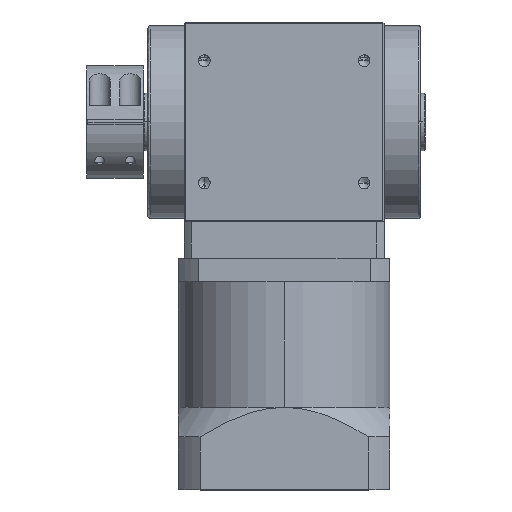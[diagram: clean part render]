
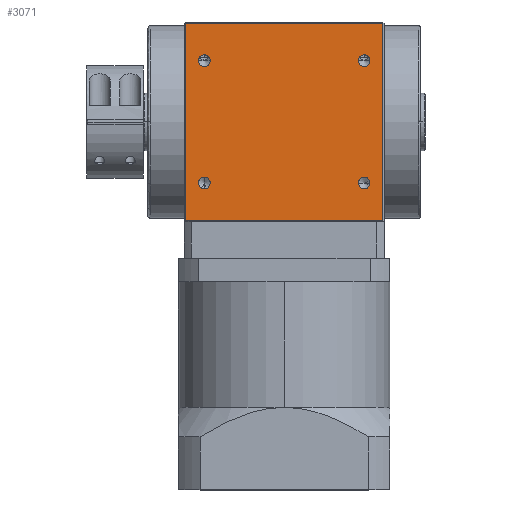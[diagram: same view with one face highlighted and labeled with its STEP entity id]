
A CAD part, top view. The second image highlights one B-rep face of the part: STEP entity #3071.
In plain terms, the highlighted planar face has unit normal (0, 0, 1).
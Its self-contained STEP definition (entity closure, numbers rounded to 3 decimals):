
#25 = CARTESIAN_POINT ( 'NONE',  ( 34., 26., 42.5 ) ) ;
#42 = DIRECTION ( 'NONE',  ( 0., 0., 1. ) ) ;
#61 = DIRECTION ( 'NONE',  ( 1., 0., 0. ) ) ;
#262 = CARTESIAN_POINT ( 'NONE',  ( 31.5, -26., 42.5 ) ) ;
#397 = EDGE_CURVE ( 'NONE', #5567, #9433, #11370, .T. ) ;
#424 = EDGE_CURVE ( 'NONE', #2820, #6285, #6863, .T. ) ;
#485 = EDGE_CURVE ( 'NONE', #9433, #2640, #631, .T. ) ;
#548 = EDGE_CURVE ( 'NONE', #1032, #10187, #4517, .T. ) ;
#565 = EDGE_CURVE ( 'NONE', #2640, #7219, #9740, .T. ) ;
#604 = EDGE_CURVE ( 'NONE', #7219, #5567, #8269, .T. ) ;
#631 = LINE ( 'NONE', #764, #7059 ) ;
#640 = FACE_BOUND ( 'NONE', #5780, .T. ) ;
#677 = EDGE_CURVE ( 'NONE', #4220, #11916, #7909, .T. ) ;
#742 = ORIENTED_EDGE ( 'NONE', *, *, #424, .F. ) ;
#764 = CARTESIAN_POINT ( 'NONE',  ( -42., -42., 42.5 ) ) ;
#773 = EDGE_CURVE ( 'NONE', #8982, #12271, #3644, .T. ) ;
#817 = EDGE_CURVE ( 'NONE', #12271, #8982, #9610, .T. ) ;
#949 = EDGE_CURVE ( 'NONE', #10187, #1032, #5372, .T. ) ;
#1003 = EDGE_CURVE ( 'NONE', #11916, #4220, #5336, .T. ) ;
#1032 = VERTEX_POINT ( 'NONE', #262 ) ;
#1258 = EDGE_CURVE ( 'NONE', #6285, #2820, #5048, .T. ) ;
#1332 = EDGE_LOOP ( 'NONE', ( #6179, #5222, #1827, #8667 ) ) ;
#1609 = ORIENTED_EDGE ( 'NONE', *, *, #949, .F. ) ;
#1648 = EDGE_LOOP ( 'NONE', ( #6315, #12112 ) ) ;
#1767 = DIRECTION ( 'NONE',  ( 0., 1., 0. ) ) ;
#1827 = ORIENTED_EDGE ( 'NONE', *, *, #397, .F. ) ;
#1879 = ORIENTED_EDGE ( 'NONE', *, *, #817, .F. ) ;
#1894 = CARTESIAN_POINT ( 'NONE',  ( 34., -26., 42.5 ) ) ;
#2361 = CARTESIAN_POINT ( 'NONE',  ( 36.5, 26., 42.5 ) ) ;
#2384 = ORIENTED_EDGE ( 'NONE', *, *, #773, .F. ) ;
#2524 = CARTESIAN_POINT ( 'NONE',  ( -34., 26., 42.5 ) ) ;
#2539 = DIRECTION ( 'NONE',  ( 0., 0., 1. ) ) ;
#2563 = DIRECTION ( 'NONE',  ( 1., 0., 0. ) ) ;
#2640 = VERTEX_POINT ( 'NONE', #7546 ) ;
#2820 = VERTEX_POINT ( 'NONE', #12264 ) ;
#2882 = DIRECTION ( 'NONE',  ( 1., 0., 0. ) ) ;
#2923 = DIRECTION ( 'NONE',  ( 0., -1., 0. ) ) ;
#3071 = ADVANCED_FACE ( 'NONE', ( #640, #11473, #8362, #12219, #3231 ), #11383, .F. ) ;
#3231 = FACE_OUTER_BOUND ( 'NONE', #1332, .T. ) ;
#3549 = AXIS2_PLACEMENT_3D ( 'NONE', #10525, #4677, #11505 ) ;
#3644 = CIRCLE ( 'NONE', #7374, 2.5 ) ;
#4111 = EDGE_LOOP ( 'NONE', ( #1879, #2384 ) ) ;
#4220 = VERTEX_POINT ( 'NONE', #2361 ) ;
#4410 = CARTESIAN_POINT ( 'NONE',  ( 42., 42., 42.5 ) ) ;
#4517 = CIRCLE ( 'NONE', #7942, 2.5 ) ;
#4677 = DIRECTION ( 'NONE',  ( 0., 0., 1. ) ) ;
#4959 = DIRECTION ( 'NONE',  ( 0., 0., 1. ) ) ;
#5048 = CIRCLE ( 'NONE', #8153, 2.5 ) ;
#5140 = DIRECTION ( 'NONE',  ( 0., 0., 1. ) ) ;
#5176 = AXIS2_PLACEMENT_3D ( 'NONE', #25, #42, #61 ) ;
#5222 = ORIENTED_EDGE ( 'NONE', *, *, #485, .F. ) ;
#5311 = VECTOR ( 'NONE', #11681, 1000. ) ;
#5336 = CIRCLE ( 'NONE', #5176, 2.5 ) ;
#5372 = CIRCLE ( 'NONE', #5856, 2.5 ) ;
#5517 = CARTESIAN_POINT ( 'NONE',  ( -42., -42., 42.5 ) ) ;
#5567 = VERTEX_POINT ( 'NONE', #6340 ) ;
#5780 = EDGE_LOOP ( 'NONE', ( #8535, #742 ) ) ;
#5856 = AXIS2_PLACEMENT_3D ( 'NONE', #10783, #7968, #6025 ) ;
#5972 = DIRECTION ( 'NONE',  ( 0., 0., 1. ) ) ;
#6025 = DIRECTION ( 'NONE',  ( 1., 0., 0. ) ) ;
#6179 = ORIENTED_EDGE ( 'NONE', *, *, #565, .F. ) ;
#6224 = CARTESIAN_POINT ( 'NONE',  ( -31.5, -26., 42.5 ) ) ;
#6285 = VERTEX_POINT ( 'NONE', #8838 ) ;
#6315 = ORIENTED_EDGE ( 'NONE', *, *, #677, .F. ) ;
#6340 = CARTESIAN_POINT ( 'NONE',  ( 42., -42., 42.5 ) ) ;
#6642 = DIRECTION ( 'NONE',  ( 1., 0., 0. ) ) ;
#6767 = CARTESIAN_POINT ( 'NONE',  ( 42., -42., 42.5 ) ) ;
#6863 = CIRCLE ( 'NONE', #3549, 2.5 ) ;
#6977 = AXIS2_PLACEMENT_3D ( 'NONE', #11868, #5972, #6642 ) ;
#7059 = VECTOR ( 'NONE', #1767, 1000. ) ;
#7219 = VERTEX_POINT ( 'NONE', #4410 ) ;
#7374 = AXIS2_PLACEMENT_3D ( 'NONE', #10986, #5140, #11964 ) ;
#7546 = CARTESIAN_POINT ( 'NONE',  ( -42., 42., 42.5 ) ) ;
#7739 = CARTESIAN_POINT ( 'NONE',  ( 42., 42., 42.5 ) ) ;
#7861 = AXIS2_PLACEMENT_3D ( 'NONE', #10795, #4959, #11795 ) ;
#7909 = CIRCLE ( 'NONE', #7861, 2.5 ) ;
#7942 = AXIS2_PLACEMENT_3D ( 'NONE', #1894, #8728, #2882 ) ;
#7968 = DIRECTION ( 'NONE',  ( 0., 0., 1. ) ) ;
#8028 = VECTOR ( 'NONE', #2923, 1000. ) ;
#8145 = VECTOR ( 'NONE', #11463, 1000. ) ;
#8153 = AXIS2_PLACEMENT_3D ( 'NONE', #2524, #2539, #2563 ) ;
#8269 = LINE ( 'NONE', #6767, #8028 ) ;
#8362 = FACE_BOUND ( 'NONE', #4111, .T. ) ;
#8414 = CARTESIAN_POINT ( 'NONE',  ( -36.5, -26., 42.5 ) ) ;
#8479 = CARTESIAN_POINT ( 'NONE',  ( 42., -42., 42.5 ) ) ;
#8535 = ORIENTED_EDGE ( 'NONE', *, *, #1258, .F. ) ;
#8667 = ORIENTED_EDGE ( 'NONE', *, *, #604, .F. ) ;
#8728 = DIRECTION ( 'NONE',  ( 0., 0., 1. ) ) ;
#8838 = CARTESIAN_POINT ( 'NONE',  ( -31.5, 26., 42.5 ) ) ;
#8982 = VERTEX_POINT ( 'NONE', #8414 ) ;
#9433 = VERTEX_POINT ( 'NONE', #5517 ) ;
#9610 = CIRCLE ( 'NONE', #6977, 2.5 ) ;
#9740 = LINE ( 'NONE', #7739, #5311 ) ;
#9766 = ORIENTED_EDGE ( 'NONE', *, *, #548, .F. ) ;
#10166 = CARTESIAN_POINT ( 'NONE',  ( 36.5, -26., 42.5 ) ) ;
#10187 = VERTEX_POINT ( 'NONE', #10166 ) ;
#10228 = AXIS2_PLACEMENT_3D ( 'NONE', #11275, #11266, #11221 ) ;
#10525 = CARTESIAN_POINT ( 'NONE',  ( -34., 26., 42.5 ) ) ;
#10607 = EDGE_LOOP ( 'NONE', ( #1609, #9766 ) ) ;
#10783 = CARTESIAN_POINT ( 'NONE',  ( 34., -26., 42.5 ) ) ;
#10795 = CARTESIAN_POINT ( 'NONE',  ( 34., 26., 42.5 ) ) ;
#10986 = CARTESIAN_POINT ( 'NONE',  ( -34., -26., 42.5 ) ) ;
#11210 = CARTESIAN_POINT ( 'NONE',  ( 31.5, 26., 42.5 ) ) ;
#11221 = DIRECTION ( 'NONE',  ( -1., 0., 0. ) ) ;
#11266 = DIRECTION ( 'NONE',  ( 0., 0., -1. ) ) ;
#11275 = CARTESIAN_POINT ( 'NONE',  ( 42., -42., 42.5 ) ) ;
#11370 = LINE ( 'NONE', #8479, #8145 ) ;
#11383 = PLANE ( 'NONE',  #10228 ) ;
#11463 = DIRECTION ( 'NONE',  ( -1., 0., 0. ) ) ;
#11473 = FACE_BOUND ( 'NONE', #10607, .T. ) ;
#11505 = DIRECTION ( 'NONE',  ( 1., 0., 0. ) ) ;
#11681 = DIRECTION ( 'NONE',  ( 1., 0., 0. ) ) ;
#11795 = DIRECTION ( 'NONE',  ( 1., 0., 0. ) ) ;
#11868 = CARTESIAN_POINT ( 'NONE',  ( -34., -26., 42.5 ) ) ;
#11916 = VERTEX_POINT ( 'NONE', #11210 ) ;
#11964 = DIRECTION ( 'NONE',  ( 1., 0., 0. ) ) ;
#12112 = ORIENTED_EDGE ( 'NONE', *, *, #1003, .F. ) ;
#12219 = FACE_BOUND ( 'NONE', #1648, .T. ) ;
#12264 = CARTESIAN_POINT ( 'NONE',  ( -36.5, 26., 42.5 ) ) ;
#12271 = VERTEX_POINT ( 'NONE', #6224 ) ;
